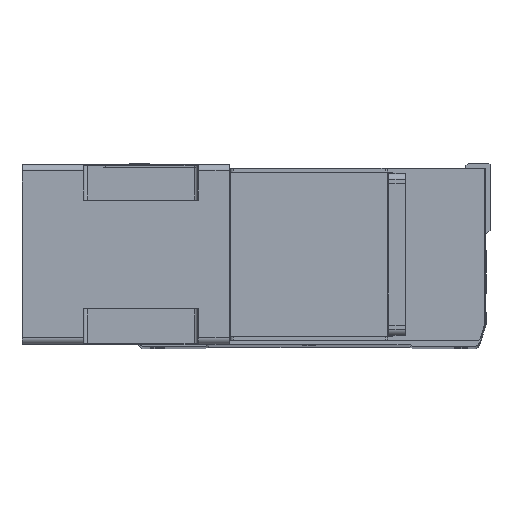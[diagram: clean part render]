
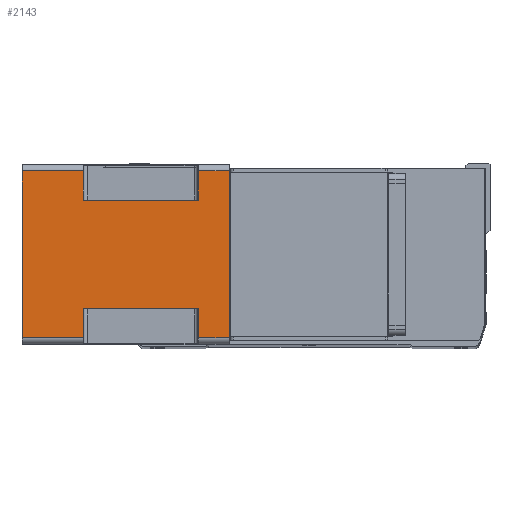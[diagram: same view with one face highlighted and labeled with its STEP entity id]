
A CAD part, top view. The second image highlights one B-rep face of the part: STEP entity #2143.
In plain terms, the highlighted planar face has unit normal (0, 0, 1) as drawn and (-1, 0, 0) by its records, which use the part's own axes.
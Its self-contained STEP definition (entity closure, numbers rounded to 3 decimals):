
#113 = DIRECTION ( 'NONE',  ( 0., -1., 0. ) ) ;
#395 = VERTEX_POINT ( 'NONE', #39884 ) ;
#455 = VERTEX_POINT ( 'NONE', #23211 ) ;
#742 = DIRECTION ( 'NONE',  ( 0., -1., 0. ) ) ;
#956 = CARTESIAN_POINT ( 'NONE',  ( -71., -66., -115.5 ) ) ;
#2122 = VECTOR ( 'NONE', #3929, 1000. ) ;
#2143 = ADVANCED_FACE ( 'NONE', ( #11896 ), #13622, .T. ) ;
#2553 = CARTESIAN_POINT ( 'NONE',  ( -71., -66., 0. ) ) ;
#2622 = VECTOR ( 'NONE', #43380, 1000. ) ;
#3106 = VERTEX_POINT ( 'NONE', #6683 ) ;
#3362 = CARTESIAN_POINT ( 'NONE',  ( -71., -66., -164. ) ) ;
#3929 = DIRECTION ( 'NONE',  ( 0., 1., 0. ) ) ;
#4059 = DIRECTION ( 'NONE',  ( 0., 0., -1. ) ) ;
#4402 = DIRECTION ( 'NONE',  ( 0., 0., 1. ) ) ;
#4652 = LINE ( 'NONE', #31116, #33447 ) ;
#4894 = DIRECTION ( 'NONE',  ( 0., 0., 1. ) ) ;
#6369 = LINE ( 'NONE', #7172, #28346 ) ;
#6683 = CARTESIAN_POINT ( 'NONE',  ( -71., 66., -164. ) ) ;
#6697 = CARTESIAN_POINT ( 'NONE',  ( -71., -66., -24.5 ) ) ;
#6767 = DIRECTION ( 'NONE',  ( -1., 0., 0. ) ) ;
#7172 = CARTESIAN_POINT ( 'NONE',  ( -71., -66., -164. ) ) ;
#9073 = VERTEX_POINT ( 'NONE', #10044 ) ;
#9126 = EDGE_CURVE ( 'NONE', #395, #37945, #40230, .T. ) ;
#9192 = ORIENTED_EDGE ( 'NONE', *, *, #30343, .T. ) ;
#9857 = VERTEX_POINT ( 'NONE', #36382 ) ;
#10044 = CARTESIAN_POINT ( 'NONE',  ( -71., 66., -115.5 ) ) ;
#10409 = VECTOR ( 'NONE', #4402, 1000. ) ;
#10459 = CARTESIAN_POINT ( 'NONE',  ( -71., -66., 0. ) ) ;
#11200 = VERTEX_POINT ( 'NONE', #14788 ) ;
#11370 = DIRECTION ( 'NONE',  ( 0., 0., 1. ) ) ;
#11896 = FACE_OUTER_BOUND ( 'NONE', #38753, .T. ) ;
#12187 = ORIENTED_EDGE ( 'NONE', *, *, #36525, .T. ) ;
#13622 = PLANE ( 'NONE',  #15370 ) ;
#13679 = VECTOR ( 'NONE', #37608, 1000. ) ;
#14530 = VERTEX_POINT ( 'NONE', #30713 ) ;
#14788 = CARTESIAN_POINT ( 'NONE',  ( -71., 43., -115.5 ) ) ;
#15370 = AXIS2_PLACEMENT_3D ( 'NONE', #3362, #6767, #113 ) ;
#15500 = CARTESIAN_POINT ( 'NONE',  ( -71., -43., -115.5 ) ) ;
#16405 = ORIENTED_EDGE ( 'NONE', *, *, #27463, .T. ) ;
#16766 = CARTESIAN_POINT ( 'NONE',  ( -71., 43., -24.5 ) ) ;
#17527 = EDGE_CURVE ( 'NONE', #37503, #455, #6369, .T. ) ;
#18253 = CARTESIAN_POINT ( 'NONE',  ( -71., 43., -24.5 ) ) ;
#20118 = DIRECTION ( 'NONE',  ( 0., -1., 0. ) ) ;
#20205 = ORIENTED_EDGE ( 'NONE', *, *, #32557, .F. ) ;
#20307 = VERTEX_POINT ( 'NONE', #2553 ) ;
#20350 = VERTEX_POINT ( 'NONE', #15500 ) ;
#20401 = ORIENTED_EDGE ( 'NONE', *, *, #25781, .F. ) ;
#20621 = VECTOR ( 'NONE', #36332, 1000. ) ;
#20631 = ORIENTED_EDGE ( 'NONE', *, *, #31025, .F. ) ;
#21006 = LINE ( 'NONE', #37310, #13679 ) ;
#21705 = VECTOR ( 'NONE', #11370, 1000. ) ;
#22089 = VECTOR ( 'NONE', #4894, 1000. ) ;
#23211 = CARTESIAN_POINT ( 'NONE',  ( -71., -66., -115.5 ) ) ;
#23601 = CARTESIAN_POINT ( 'NONE',  ( -71., -66., -164. ) ) ;
#23659 = EDGE_CURVE ( 'NONE', #11200, #9073, #35291, .T. ) ;
#23995 = CARTESIAN_POINT ( 'NONE',  ( -71., -43., -115.5 ) ) ;
#25781 = EDGE_CURVE ( 'NONE', #14530, #9857, #30622, .T. ) ;
#27001 = EDGE_CURVE ( 'NONE', #11200, #43168, #21006, .T. ) ;
#27463 = EDGE_CURVE ( 'NONE', #3106, #37503, #42978, .T. ) ;
#27484 = LINE ( 'NONE', #10459, #43212 ) ;
#27985 = CARTESIAN_POINT ( 'NONE',  ( -71., -66., -164. ) ) ;
#28346 = VECTOR ( 'NONE', #30417, 1000. ) ;
#29532 = ORIENTED_EDGE ( 'NONE', *, *, #17527, .T. ) ;
#30343 = EDGE_CURVE ( 'NONE', #14530, #43168, #43157, .T. ) ;
#30417 = DIRECTION ( 'NONE',  ( 0., 0., 1. ) ) ;
#30622 = LINE ( 'NONE', #31418, #21705 ) ;
#30713 = CARTESIAN_POINT ( 'NONE',  ( -71., 66., -24.5 ) ) ;
#31025 = EDGE_CURVE ( 'NONE', #3106, #9073, #38362, .T. ) ;
#31116 = CARTESIAN_POINT ( 'NONE',  ( -71., -43., -164. ) ) ;
#31418 = CARTESIAN_POINT ( 'NONE',  ( -71., 66., -164. ) ) ;
#31475 = EDGE_CURVE ( 'NONE', #455, #20350, #37219, .T. ) ;
#32557 = EDGE_CURVE ( 'NONE', #395, #20350, #4652, .T. ) ;
#33447 = VECTOR ( 'NONE', #4059, 1000. ) ;
#34110 = ORIENTED_EDGE ( 'NONE', *, *, #23659, .T. ) ;
#35291 = LINE ( 'NONE', #956, #36346 ) ;
#36121 = ORIENTED_EDGE ( 'NONE', *, *, #43430, .F. ) ;
#36332 = DIRECTION ( 'NONE',  ( 0., -1., 0. ) ) ;
#36346 = VECTOR ( 'NONE', #37604, 1000. ) ;
#36382 = CARTESIAN_POINT ( 'NONE',  ( -71., 66., 0. ) ) ;
#36525 = EDGE_CURVE ( 'NONE', #37945, #20307, #42327, .T. ) ;
#37107 = ORIENTED_EDGE ( 'NONE', *, *, #27001, .F. ) ;
#37219 = LINE ( 'NONE', #23995, #2122 ) ;
#37310 = CARTESIAN_POINT ( 'NONE',  ( -71., 43., -164. ) ) ;
#37503 = VERTEX_POINT ( 'NONE', #42746 ) ;
#37604 = DIRECTION ( 'NONE',  ( 0., 1., 0. ) ) ;
#37608 = DIRECTION ( 'NONE',  ( 0., 0., 1. ) ) ;
#37945 = VERTEX_POINT ( 'NONE', #6697 ) ;
#38128 = VECTOR ( 'NONE', #742, 1000. ) ;
#38362 = LINE ( 'NONE', #41645, #22089 ) ;
#38753 = EDGE_LOOP ( 'NONE', ( #29532, #40714, #20205, #38931, #12187, #36121, #20401, #9192, #37107, #34110, #20631, #16405 ) ) ;
#38931 = ORIENTED_EDGE ( 'NONE', *, *, #9126, .T. ) ;
#39884 = CARTESIAN_POINT ( 'NONE',  ( -71., -43., -24.5 ) ) ;
#40230 = LINE ( 'NONE', #41045, #38128 ) ;
#40714 = ORIENTED_EDGE ( 'NONE', *, *, #31475, .T. ) ;
#41045 = CARTESIAN_POINT ( 'NONE',  ( -71., -66., -24.5 ) ) ;
#41645 = CARTESIAN_POINT ( 'NONE',  ( -71., 66., -164. ) ) ;
#42327 = LINE ( 'NONE', #27985, #10409 ) ;
#42746 = CARTESIAN_POINT ( 'NONE',  ( -71., -66., -164. ) ) ;
#42978 = LINE ( 'NONE', #23601, #2622 ) ;
#43157 = LINE ( 'NONE', #16766, #20621 ) ;
#43168 = VERTEX_POINT ( 'NONE', #18253 ) ;
#43212 = VECTOR ( 'NONE', #20118, 1000. ) ;
#43380 = DIRECTION ( 'NONE',  ( 0., -1., 0. ) ) ;
#43430 = EDGE_CURVE ( 'NONE', #9857, #20307, #27484, .T. ) ;
